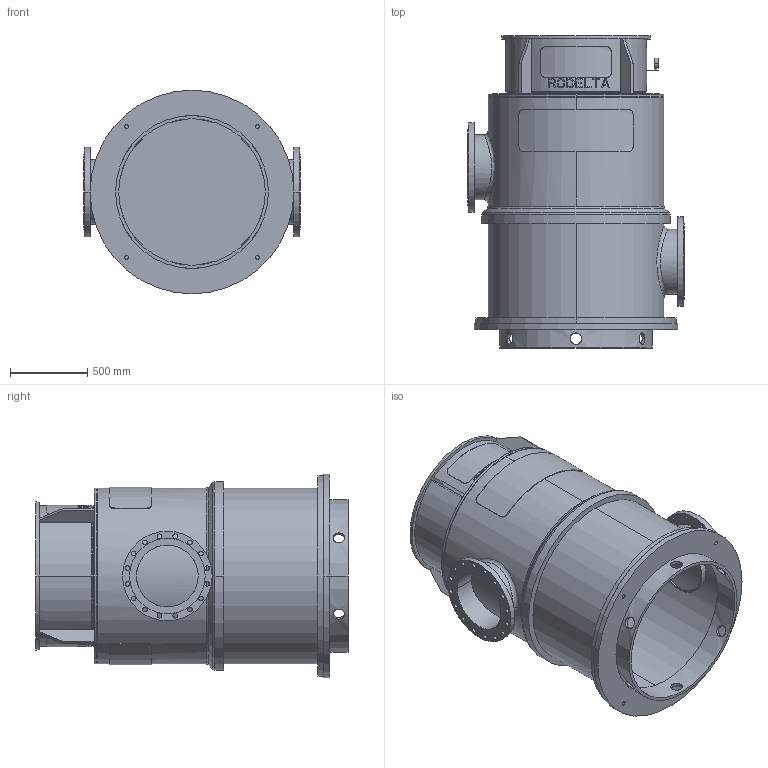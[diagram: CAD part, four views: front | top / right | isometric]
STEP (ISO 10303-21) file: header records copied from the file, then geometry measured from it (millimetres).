
FILE_DESCRIPTION((''),'2;1');
FILE_NAME('LS16_1TR_0GR_UPTO_90KW','2023-08-24T',('Lyritlocal'),(''),'PRO/ENGINEER BY PARAMETRIC TECHNOLOGY CORPORATION, 2016360','PRO/ENGINEER BY PARAMETRIC TECHNOLOGY CORPORATION, 2016360','');
FILE_SCHEMA(('CONFIG_CONTROL_DESIGN'));
Length unit declared in the file: millimetre
Products named in the file (1): LS16_1TR_0GR_UPTO_90KW
Bounding box: 1400 x 2022.5 x 1320 mm (x, y, z)
Volume: 170772276.8 mm3; surface area: 20216191.6 mm2
Topology: 3 solids, 3 shells, 564 faces, 1497 edges, 984 vertices
Faces by surface type: plane 346, cylinder 196, cone 14, bspline 4, torus 4
Entity records: 18915 total; most frequent: CARTESIAN_POINT 5093, ORIENTED_EDGE 2994, DIRECTION 2647, EDGE_CURVE 1497, AXIS2_PLACEMENT_3D 996, VERTEX_POINT 984, EDGE_LOOP 689, VECTOR 655
